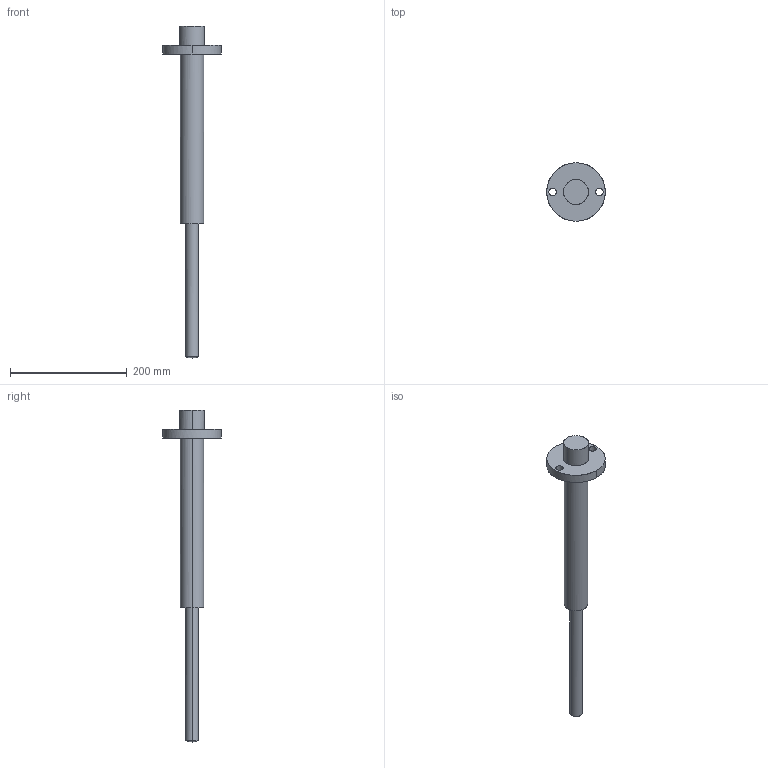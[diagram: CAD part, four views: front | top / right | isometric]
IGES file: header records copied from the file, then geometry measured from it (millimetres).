
Global section: file name: E:\UnigraphicsGraphicData\MISUMI_PRESS-PARTS\IGES\3d_paps220-290_01684_r00.igs; native system: NX V5.0; preprocessor: UGS NX IGES V5.0; author: MISUMI; date: 20110105.162223; units: millimetre
Bounding box: 100 x 100 x 568 mm (x, y, z)
Surface area: 82633.3 mm2 (no closed solid volume)
Topology: 0 solids, 0 shells, 22 faces, 232 edges, 230 vertices
Faces by surface type: bspline 22
